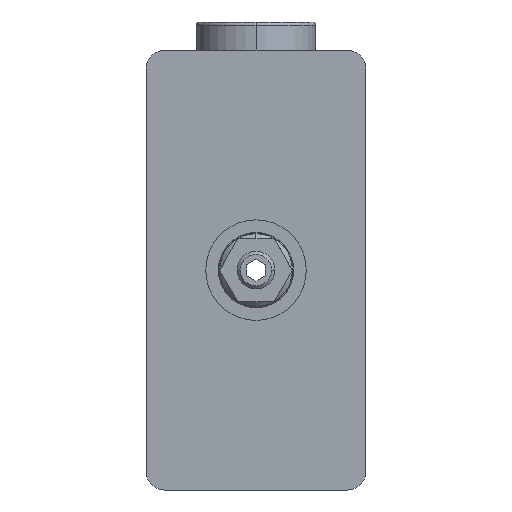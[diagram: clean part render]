
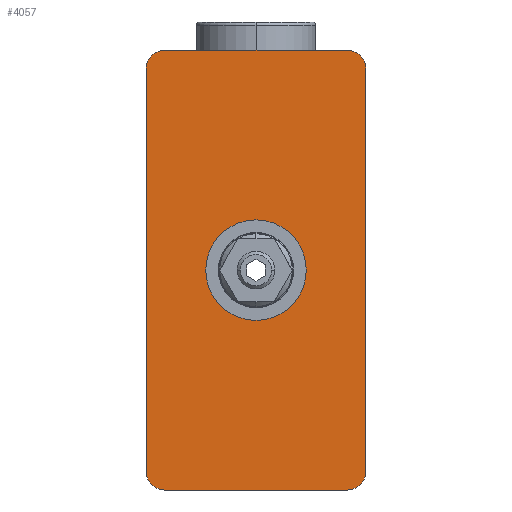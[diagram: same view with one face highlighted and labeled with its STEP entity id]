
A CAD part, left-side view. The second image highlights one B-rep face of the part: STEP entity #4057.
In plain terms, the highlighted planar face has unit normal (-1, 0, 0).
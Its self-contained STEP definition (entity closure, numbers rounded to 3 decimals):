
#88 = VERTEX_POINT ( 'NONE', #4218 ) ;
#250 = VECTOR ( 'NONE', #1428, 1000. ) ;
#292 = CARTESIAN_POINT ( 'NONE',  ( -54.5, 14.5, 32. ) ) ;
#445 = DIRECTION ( 'NONE',  ( 0., 0., -1. ) ) ;
#616 = CARTESIAN_POINT ( 'NONE',  ( -54.5, 14.5, -32. ) ) ;
#624 = CARTESIAN_POINT ( 'NONE',  ( -54.5, 17.5, 32. ) ) ;
#716 = DIRECTION ( 'NONE',  ( 0., 0., -1. ) ) ;
#772 = CARTESIAN_POINT ( 'NONE',  ( -54.5, 0., 8. ) ) ;
#798 = AXIS2_PLACEMENT_3D ( 'NONE', #1714, #1295, #3225 ) ;
#811 = CARTESIAN_POINT ( 'NONE',  ( -54.5, -14.5, 35. ) ) ;
#1016 = ORIENTED_EDGE ( 'NONE', *, *, #4785, .F. ) ;
#1236 = DIRECTION ( 'NONE',  ( 0., 0., 1. ) ) ;
#1285 = CARTESIAN_POINT ( 'NONE',  ( -54.5, 0., 0. ) ) ;
#1295 = DIRECTION ( 'NONE',  ( -1., 0., 0. ) ) ;
#1394 = AXIS2_PLACEMENT_3D ( 'NONE', #1538, #4568, #445 ) ;
#1428 = DIRECTION ( 'NONE',  ( 0., -1., 0. ) ) ;
#1495 = ORIENTED_EDGE ( 'NONE', *, *, #3146, .F. ) ;
#1501 = DIRECTION ( 'NONE',  ( 0., 0., 1. ) ) ;
#1521 = VERTEX_POINT ( 'NONE', #4670 ) ;
#1538 = CARTESIAN_POINT ( 'NONE',  ( -54.5, 17.5, 35. ) ) ;
#1574 = AXIS2_PLACEMENT_3D ( 'NONE', #616, #2099, #2938 ) ;
#1642 = VECTOR ( 'NONE', #3222, 1000. ) ;
#1662 = VECTOR ( 'NONE', #3818, 1000. ) ;
#1682 = EDGE_CURVE ( 'NONE', #88, #1888, #3669, .T. ) ;
#1714 = CARTESIAN_POINT ( 'NONE',  ( -54.5, -14.5, -32. ) ) ;
#1717 = AXIS2_PLACEMENT_3D ( 'NONE', #2976, #3754, #2162 ) ;
#1727 = CIRCLE ( 'NONE', #3958, 8. ) ;
#1763 = CARTESIAN_POINT ( 'NONE',  ( -54.5, -17.5, 32. ) ) ;
#1778 = EDGE_CURVE ( 'NONE', #1521, #2688, #4532, .T. ) ;
#1812 = CARTESIAN_POINT ( 'NONE',  ( -54.5, -14.5, -35. ) ) ;
#1871 = CARTESIAN_POINT ( 'NONE',  ( -54.5, 0., 0. ) ) ;
#1884 = FACE_OUTER_BOUND ( 'NONE', #2691, .T. ) ;
#1887 = CARTESIAN_POINT ( 'NONE',  ( -54.5, 17.5, -35. ) ) ;
#1888 = VERTEX_POINT ( 'NONE', #811 ) ;
#2076 = CARTESIAN_POINT ( 'NONE',  ( -54.5, 0., -8. ) ) ;
#2099 = DIRECTION ( 'NONE',  ( -1., 0., 0. ) ) ;
#2162 = DIRECTION ( 'NONE',  ( 0., 0., -1. ) ) ;
#2215 = VERTEX_POINT ( 'NONE', #4357 ) ;
#2321 = VERTEX_POINT ( 'NONE', #1763 ) ;
#2324 = EDGE_CURVE ( 'NONE', #2321, #1888, #3540, .T. ) ;
#2343 = CIRCLE ( 'NONE', #4645, 3. ) ;
#2352 = VECTOR ( 'NONE', #3402, 1000. ) ;
#2357 = EDGE_CURVE ( 'NONE', #3785, #2960, #3804, .T. ) ;
#2419 = VERTEX_POINT ( 'NONE', #772 ) ;
#2477 = EDGE_CURVE ( 'NONE', #2215, #2321, #3158, .T. ) ;
#2625 = EDGE_CURVE ( 'NONE', #88, #2688, #2343, .T. ) ;
#2629 = FACE_BOUND ( 'NONE', #4382, .T. ) ;
#2688 = VERTEX_POINT ( 'NONE', #624 ) ;
#2691 = EDGE_LOOP ( 'NONE', ( #3753, #4442, #3481, #3178, #3455, #3398, #3758, #2949 ) ) ;
#2755 = DIRECTION ( 'NONE',  ( -1., 0., 0. ) ) ;
#2840 = EDGE_CURVE ( 'NONE', #2960, #2215, #2854, .T. ) ;
#2854 = CIRCLE ( 'NONE', #798, 3. ) ;
#2938 = DIRECTION ( 'NONE',  ( 0., 0., -1. ) ) ;
#2949 = ORIENTED_EDGE ( 'NONE', *, *, #4730, .T. ) ;
#2960 = VERTEX_POINT ( 'NONE', #1812 ) ;
#2976 = CARTESIAN_POINT ( 'NONE',  ( -54.5, -14.5, 32. ) ) ;
#3146 = EDGE_CURVE ( 'NONE', #2419, #3464, #4372, .T. ) ;
#3158 = LINE ( 'NONE', #3622, #1642 ) ;
#3178 = ORIENTED_EDGE ( 'NONE', *, *, #2324, .T. ) ;
#3222 = DIRECTION ( 'NONE',  ( 0., 0., 1. ) ) ;
#3225 = DIRECTION ( 'NONE',  ( 0., 0., -1. ) ) ;
#3234 = CIRCLE ( 'NONE', #1574, 3. ) ;
#3243 = DIRECTION ( 'NONE',  ( -1., 0., 0. ) ) ;
#3398 = ORIENTED_EDGE ( 'NONE', *, *, #2625, .T. ) ;
#3402 = DIRECTION ( 'NONE',  ( 0., -1., 0. ) ) ;
#3423 = PLANE ( 'NONE',  #1394 ) ;
#3455 = ORIENTED_EDGE ( 'NONE', *, *, #1682, .F. ) ;
#3464 = VERTEX_POINT ( 'NONE', #2076 ) ;
#3481 = ORIENTED_EDGE ( 'NONE', *, *, #2477, .T. ) ;
#3540 = CIRCLE ( 'NONE', #1717, 3. ) ;
#3622 = CARTESIAN_POINT ( 'NONE',  ( -54.5, -17.5, 35. ) ) ;
#3669 = LINE ( 'NONE', #4829, #250 ) ;
#3734 = AXIS2_PLACEMENT_3D ( 'NONE', #1285, #2755, #1236 ) ;
#3753 = ORIENTED_EDGE ( 'NONE', *, *, #2357, .T. ) ;
#3754 = DIRECTION ( 'NONE',  ( -1., 0., 0. ) ) ;
#3758 = ORIENTED_EDGE ( 'NONE', *, *, #1778, .F. ) ;
#3785 = VERTEX_POINT ( 'NONE', #4286 ) ;
#3795 = CARTESIAN_POINT ( 'NONE',  ( -54.5, 17.5, 35. ) ) ;
#3804 = LINE ( 'NONE', #1887, #2352 ) ;
#3818 = DIRECTION ( 'NONE',  ( 0., 0., 1. ) ) ;
#3958 = AXIS2_PLACEMENT_3D ( 'NONE', #1871, #4909, #1501 ) ;
#4057 = ADVANCED_FACE ( 'NONE', ( #1884, #2629 ), #3423, .F. ) ;
#4218 = CARTESIAN_POINT ( 'NONE',  ( -54.5, 14.5, 35. ) ) ;
#4286 = CARTESIAN_POINT ( 'NONE',  ( -54.5, 14.5, -35. ) ) ;
#4357 = CARTESIAN_POINT ( 'NONE',  ( -54.5, -17.5, -32. ) ) ;
#4372 = CIRCLE ( 'NONE', #3734, 8. ) ;
#4382 = EDGE_LOOP ( 'NONE', ( #1495, #1016 ) ) ;
#4442 = ORIENTED_EDGE ( 'NONE', *, *, #2840, .T. ) ;
#4532 = LINE ( 'NONE', #3795, #1662 ) ;
#4568 = DIRECTION ( 'NONE',  ( 1., 0., 0. ) ) ;
#4645 = AXIS2_PLACEMENT_3D ( 'NONE', #292, #3243, #716 ) ;
#4670 = CARTESIAN_POINT ( 'NONE',  ( -54.5, 17.5, -32. ) ) ;
#4730 = EDGE_CURVE ( 'NONE', #1521, #3785, #3234, .T. ) ;
#4785 = EDGE_CURVE ( 'NONE', #3464, #2419, #1727, .T. ) ;
#4829 = CARTESIAN_POINT ( 'NONE',  ( -54.5, 17.5, 35. ) ) ;
#4909 = DIRECTION ( 'NONE',  ( -1., 0., 0. ) ) ;
